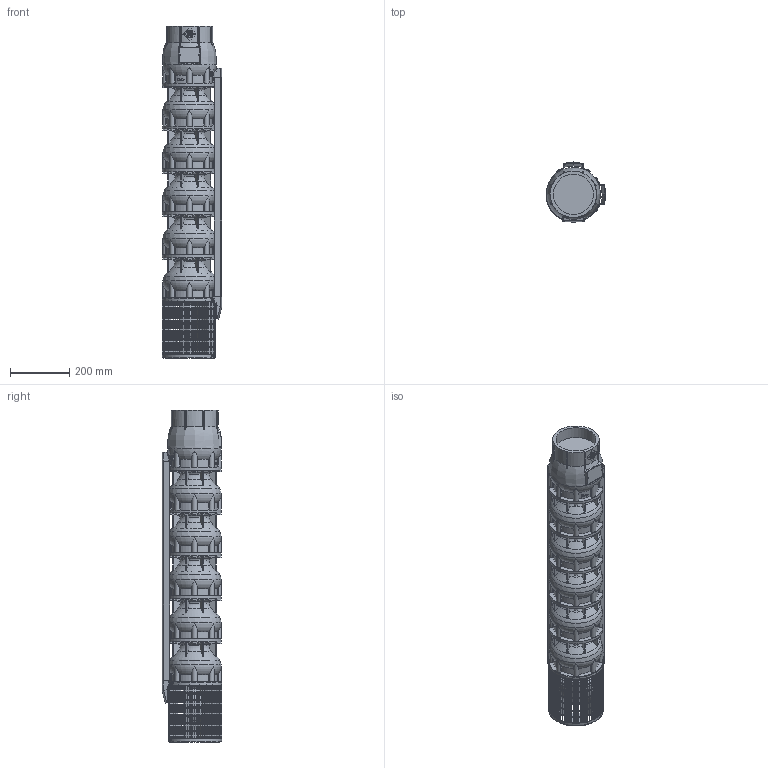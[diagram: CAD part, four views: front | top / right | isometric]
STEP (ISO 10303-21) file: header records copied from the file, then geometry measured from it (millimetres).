
FILE_DESCRIPTION(/* description */ ('Unknown'),/* implementation_level */ '2;1');
FILE_NAME(/* name */ 'VSI134-5_WR_M6-50_SLE',/* time_stamp */ '2023-09-14T15:05:07+02:00',/* author */ ('Unknown'),/* organization */ ('Unknown'),/* preprocessor_version */ 'ST-DEVELOPER v18.102',/* originating_system */ 'Solid Edge',/* authorisation */ 'Unknown');
FILE_SCHEMA (('AUTOMOTIVE_DESIGN {1 0 10303 214 3 1 1}'));
Products named in the file (11): VSI134-5_WR_M6-50_SLE; VSI134_testata; VSI134_diffusore; VSI134_supporto_8×6; VSI134_filtro_A; VSI134_filtro_B; VSI134_terminale_top_copricavo_basso; VSI134_terminale_bottom_copricavo_basso; LOW 134-5; M5X8_UNI7687; VSI134_giunto_8×6
Assembly tree (28 placements, depth 2):
  VSI134-5_WR_M6-50_SLE
    VSI134_testata
    VSI134_diffusore  x5
    VSI134_supporto_8×6
    VSI134_filtro_A
    VSI134_filtro_B
    VSI134_terminale_top_copricavo_basso  x2
    VSI134_terminale_bottom_copricavo_basso  x2
    LOW 134-5  x2
    M5X8_UNI7687  x12
    VSI134_giunto_8×6
Bounding box: 201.57 x 202.09 x 1122 mm (x, y, z)
Volume: 19211445.6 mm3; surface area: 1746006.1 mm2
Topology: 67 solids, 69 shells, 3446 faces, 9708 edges, 6470 vertices
Faces by surface type: plane 2598, cylinder 473, torus 271, cone 59, bspline 31, sphere 14
Full cylindrical faces by diameter (mm): 2.4 x2, 3 x2, 4.2 x16, 5 x12, 5.5 x8, 15 x4, 26 x1, 44 x1, 59 x1, 74 x1, 76.2 x1, 98 x1, 135.472 x1, 157 x1, 182 x6
Entity records: 83773 total; most frequent: CARTESIAN_POINT 18048, ORIENTED_EDGE 13738, DIRECTION 13178, EDGE_CURVE 6869, VERTEX_POINT 4627, AXIS2_PLACEMENT_3D 4496, LINE 4186, VECTOR 4186
